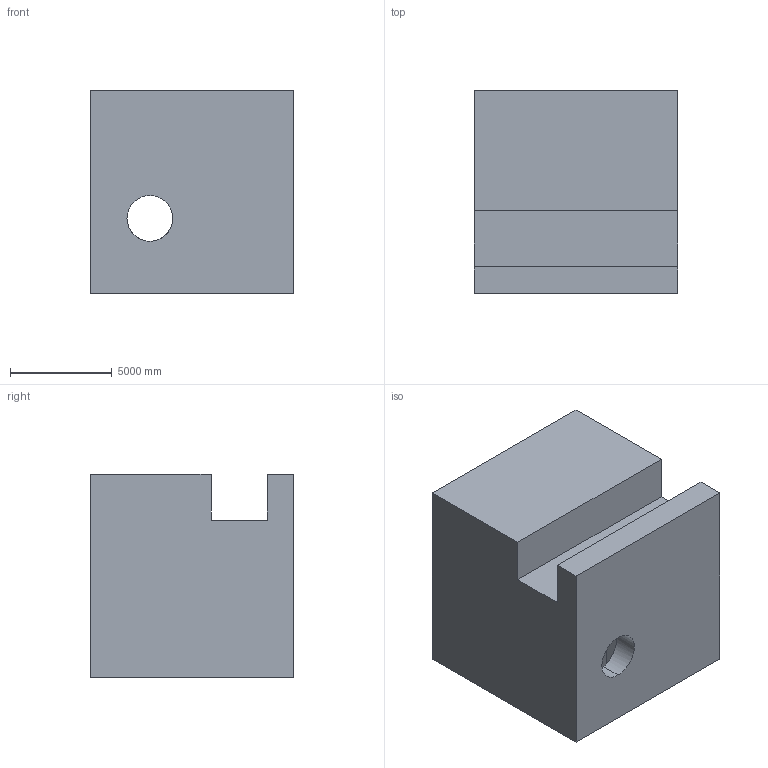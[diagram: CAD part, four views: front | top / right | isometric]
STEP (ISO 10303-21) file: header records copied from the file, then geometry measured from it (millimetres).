
FILE_DESCRIPTION (( 'STEP AP203' ), '1' );
FILE_NAME ('247.STEP', '2022-09-07T12:26:04', ( 'user' ), ( '' ), 'SwSTEP 2.0', 'SolidWorks 2021', '' );
FILE_SCHEMA (( 'CONFIG_CONTROL_DESIGN' ));
Length unit declared in the file: centimetre
Products named in the file (1): 247
Bounding box: 10000 x 10000 x 10000 mm (x, y, z)
Volume: 878458812406.5 mm3; surface area: 713069810.2 mm2
Topology: 1 solids, 1 shells, 20 faces, 57 edges, 38 vertices
Faces by surface type: plane 18, cylinder 2
Entity records: 730 total; most frequent: CARTESIAN_POINT 137, ORIENTED_EDGE 114, DIRECTION 96, EDGE_CURVE 57, VECTOR 46, LINE 46, VERTEX_POINT 38, AXIS2_PLACEMENT_3D 25
